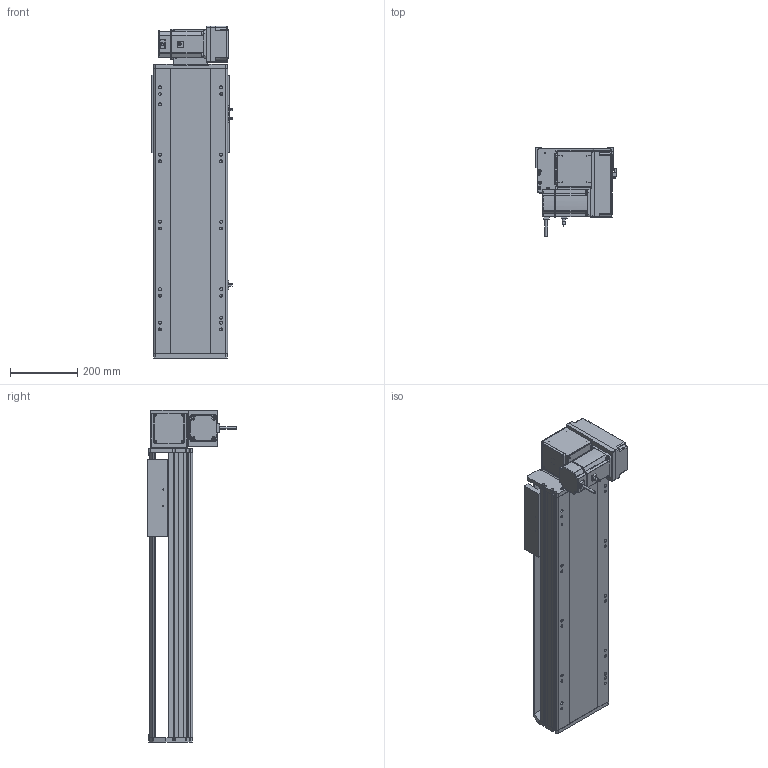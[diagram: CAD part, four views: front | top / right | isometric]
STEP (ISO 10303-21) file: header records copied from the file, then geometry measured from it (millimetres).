
FILE_DESCRIPTION (( 'STEP AP214' ), '1' );
FILE_NAME ('RTB22S-XX-500-RM-M75-C4.STEP', '2025-12-12T07:44:07', ( '' ), ( '' ), 'SwSTEP 2.0', 'SolidWorks 2018', '' );
FILE_SCHEMA (( 'AUTOMOTIVE_DESIGN' ));
Length unit declared in the file: millimetre
Products named in the file (14): RTB22S-GY-017P^RTB22S-RM-々湍釱蚾饜_RTB22S-XX-XX-RM-M75-C4; RTB22S-GY-007奻裔^RTB22S-XX-XX-RM-M75-C4; 750W萇儂^RTB22S-XX-XX-RM-M75-C4; RTB22S-GY-014--々湍釱^RTB22S-RM-々湍釱蚾饜_RTB22S-XX-XX-RM-M75-C4; OMRON EE-SX672 传感器^RTB22S-XX-XX-RM-M75-C4; RTB22S-L-011菁釱^RTB22S-XX-XX-RM-M75-C4; RTB22S-GY-001耜裔^RTB22S-XX-XX-RM-M75-C4; RTB22S-XX-500-RM-M75-C4; RTH22-GY-013外置感应片^RTB22S-XX-XX-RM-M75-C4; RTB22S-RM-々湍釱蚾饜^RTB22S-XX-XX-RM-M75-C4; RTB22S-L-004賑釱^RTB22S-XX-XX-RM-M75-C4; RTB22S-GY-005P^RTB22S-RM-々湍釱蚾饜_RTB22S-XX-XX-RM-M75-C4; RTB22S-GY-018P^RTB22S-RM-々湍釱蚾饜_RTB22S-XX-XX-RM-M75-C4; RTB22S-GY-008-M75--萇儂啣^RTB22S-RM-々湍釱蚾饜_RTB22S-XX-XX-RM-M75-C4
Assembly tree (16 placements, depth 3):
  RTB22S-XX-500-RM-M75-C4
    RTB22S-L-011菁釱^RTB22S-XX-XX-RM-M75-C4
    RTB22S-GY-001耜裔^RTB22S-XX-XX-RM-M75-C4
    750W萇儂^RTB22S-XX-XX-RM-M75-C4
    RTB22S-GY-007奻裔^RTB22S-XX-XX-RM-M75-C4
    RTB22S-L-004賑釱^RTB22S-XX-XX-RM-M75-C4
    RTH22-GY-013外置感应片^RTB22S-XX-XX-RM-M75-C4
    OMRON EE-SX672 传感器^RTB22S-XX-XX-RM-M75-C4  x3
    RTB22S-RM-々湍釱蚾饜^RTB22S-XX-XX-RM-M75-C4
      RTB22S-GY-014--々湍釱^RTB22S-RM-々湍釱蚾饜_RTB22S-XX-XX-RM-M75-C4
      RTB22S-GY-017P^RTB22S-RM-々湍釱蚾饜_RTB22S-XX-XX-RM-M75-C4  x2
      RTB22S-GY-005P^RTB22S-RM-々湍釱蚾饜_RTB22S-XX-XX-RM-M75-C4
      RTB22S-GY-008-M75--萇儂啣^RTB22S-RM-々湍釱蚾饜_RTB22S-XX-XX-RM-M75-C4
      RTB22S-GY-018P^RTB22S-RM-々湍釱蚾饜_RTB22S-XX-XX-RM-M75-C4
Bounding box: 238.5 x 264.7 x 987.5 mm (x, y, z)
Volume: 15463022.1 mm3; surface area: 1634181.1 mm2
Topology: 15 solids, 15 shells, 1929 faces, 5236 edges, 3362 vertices
Faces by surface type: plane 909, cylinder 586, bspline 296, cone 126, sphere 8, torus 4
Entity records: 50794 total; most frequent: CARTESIAN_POINT 14728, ORIENTED_EDGE 7284, DIRECTION 6956, EDGE_CURVE 3642, AXIS2_PLACEMENT_3D 2434, VERTEX_POINT 2366, VECTOR 2088, LINE 2088
